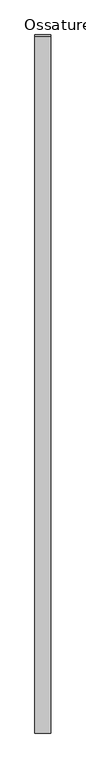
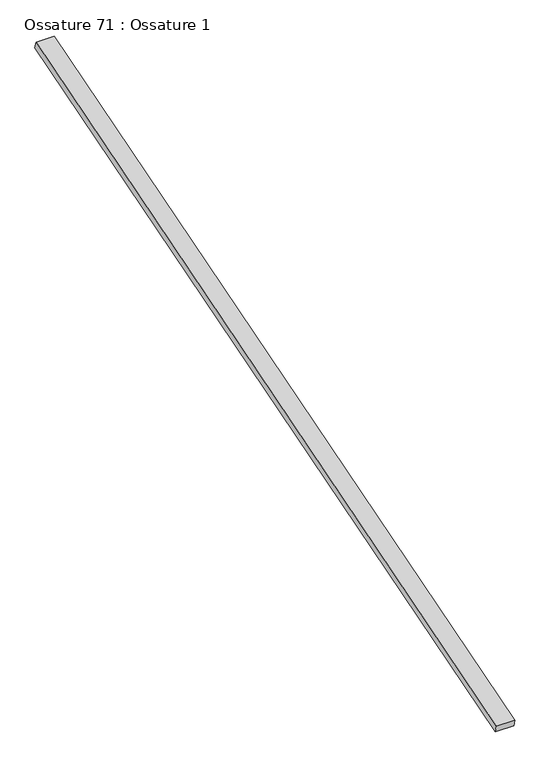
"""IFC4 building model written with IfcOpenShell, lengths in millimetres: beam geometry, Ossature 71 : Ossature 1."""

from ifc_helpers import new_model, si_unit, frame, origin, place, context, project, spatial, polyline, outline, extrude, source, transform, mapped, element, save


def ossature_71_ossature_1_11568562(model_context):
    return source(origin(), model_context, "Body", "SweptSolid", [
        extrude(outline(polyline([(0.0, 0.0), (0.0, -4543.0299679), (-100.0, -4543.0299679), (-100.0, 0.0), (0.0, 0.0)])), frame((17199.4466393, -833.3913565, 8153.6336115), z_axis=(0.0, -0.28734788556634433, 0.9578262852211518), x_axis=(-1.0, 0.0, 0.0)), (0.0, 0.0, 1.0), 40.0),
    ])


if __name__ == "__main__":
    model = new_model("IFC4")
    model_context = context("Model", 3, world=origin())
    ifc_project = project(units=[si_unit("LENGTHUNIT", "METRE", prefix="MILLI")], contexts=[model_context])
    site = spatial("IfcSite", under=ifc_project)
    building = spatial("IfcBuilding", under=site)
    placement = place(None, origin())
    ossature_71_ossature_1_shape = ossature_71_ossature_1_11568562(model_context)
    element("IfcBeam", 1, ObjectType="Ossature 71 : Ossature 1", at=placement, inside=building, context=model_context, shape_type="MappedRepresentation", body=[
        mapped(ossature_71_ossature_1_shape, transform((0.0, 0.0, 0.0), x_axis=(1.0, 0.0, 0.0), y_axis=(0.0, 1.0, 0.0), z_axis=(0.0, 0.0, 1.0))),
    ])
    save(model, "model.ifc")
